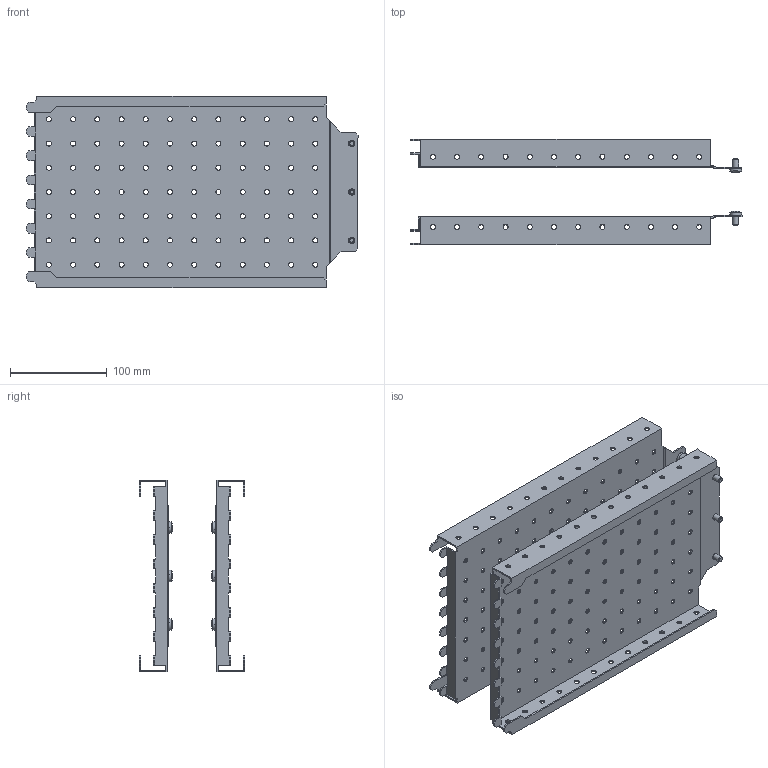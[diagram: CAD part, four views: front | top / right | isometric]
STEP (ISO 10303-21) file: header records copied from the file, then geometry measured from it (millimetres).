
FILE_DESCRIPTION (( 'STEP AP214' ), '1' );
FILE_NAME ('FO-00-MPSP-020-040 Ïàíåëü ìîíòàæíàÿ áîêîâàÿ ïåðôîðèðîâàííàÿ 200õ400 ìì (2 øò.óïàê.).STEP', '2025-08-12T11:28:08', ( '' ), ( '' ), 'SwSTEP 2.0', 'SolidWorks 2023', '' );
FILE_SCHEMA (( 'AUTOMOTIVE_DESIGN' ));
Length unit declared in the file: millimetre
Products named in the file (2): Панель монтажная боковая перфорированная 200х400 мм; FO-00-MPSP-020-040 Панель монтажная боковая перфорированная 200х400 мм (2 шт.упак.)
Assembly tree (2 placements, depth 2):
  FO-00-MPSP-020-040 Панель монтажная боковая перфорированная 200х400 мм (2 шт.упак.)
    Панель монтажная боковая перфорированная 200х400 мм  x2
Bounding box: 342.62 x 108.85 x 197.5 mm (x, y, z)
Volume: 261612.5 mm3; surface area: 356819.7 mm2
Topology: 8 solids, 8 shells, 944 faces, 2730 edges, 1808 vertices
Faces by surface type: cylinder 558, plane 342, torus 12, cone 12, sphere 12, bspline 8
Entity records: 16515 total; most frequent: CARTESIAN_POINT 3171, DIRECTION 2781, ORIENTED_EDGE 2730, EDGE_CURVE 1365, AXIS2_PLACEMENT_3D 1010, VERTEX_POINT 904, VECTOR 761, LINE 761
